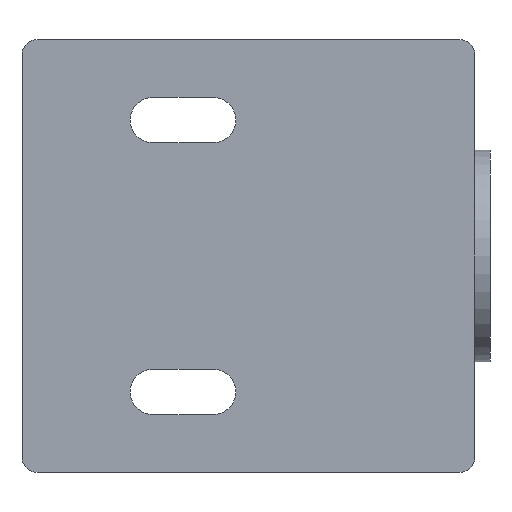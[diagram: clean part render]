
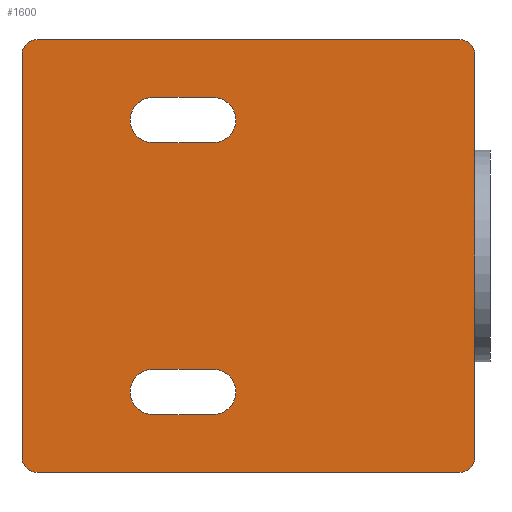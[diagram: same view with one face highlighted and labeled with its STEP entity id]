
A CAD part, front view. The second image highlights one B-rep face of the part: STEP entity #1600.
In plain terms, the highlighted planar face has unit normal (0, -1, 0).
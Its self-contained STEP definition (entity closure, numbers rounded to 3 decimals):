
#92=LINE('',#3558,#174);
#93=LINE('',#3562,#175);
#94=LINE('',#3566,#176);
#95=LINE('',#3570,#177);
#96=LINE('',#3576,#178);
#97=LINE('',#3579,#179);
#98=LINE('',#3584,#180);
#99=LINE('',#3587,#181);
#174=VECTOR('',#2185,80.);
#175=VECTOR('',#2188,84.);
#176=VECTOR('',#2191,80.);
#177=VECTOR('',#2194,84.);
#178=VECTOR('',#2199,12.);
#179=VECTOR('',#2202,12.);
#180=VECTOR('',#2205,12.);
#181=VECTOR('',#2208,12.);
#246=PLANE('',#1783);
#345=FACE_BOUND('',#549,.T.);
#346=FACE_BOUND('',#550,.T.);
#419=FACE_OUTER_BOUND('',#548,.T.);
#548=EDGE_LOOP('',(#1352,#1353,#1354,#1355,#1356,#1357,#1358,#1359));
#549=EDGE_LOOP('',(#1360,#1361,#1362,#1363));
#550=EDGE_LOOP('',(#1364,#1365,#1366,#1367));
#675=CIRCLE('',#1784,3.);
#676=CIRCLE('',#1785,3.);
#677=CIRCLE('',#1786,3.);
#678=CIRCLE('',#1787,3.);
#679=CIRCLE('',#1788,4.5);
#680=CIRCLE('',#1789,4.5);
#681=CIRCLE('',#1790,4.5);
#682=CIRCLE('',#1791,4.5);
#811=VERTEX_POINT('',#3556);
#812=VERTEX_POINT('',#3557);
#813=VERTEX_POINT('',#3559);
#814=VERTEX_POINT('',#3561);
#815=VERTEX_POINT('',#3563);
#816=VERTEX_POINT('',#3565);
#817=VERTEX_POINT('',#3567);
#818=VERTEX_POINT('',#3569);
#819=VERTEX_POINT('',#3572);
#820=VERTEX_POINT('',#3573);
#821=VERTEX_POINT('',#3575);
#822=VERTEX_POINT('',#3577);
#823=VERTEX_POINT('',#3580);
#824=VERTEX_POINT('',#3581);
#825=VERTEX_POINT('',#3583);
#826=VERTEX_POINT('',#3585);
#1006=EDGE_CURVE('',#811,#812,#92,.T.);
#1007=EDGE_CURVE('',#813,#812,#675,.T.);
#1008=EDGE_CURVE('',#813,#814,#93,.T.);
#1009=EDGE_CURVE('',#815,#814,#676,.T.);
#1010=EDGE_CURVE('',#816,#815,#94,.T.);
#1011=EDGE_CURVE('',#817,#816,#677,.T.);
#1012=EDGE_CURVE('',#818,#817,#95,.T.);
#1013=EDGE_CURVE('',#811,#818,#678,.T.);
#1014=EDGE_CURVE('',#819,#820,#679,.T.);
#1015=EDGE_CURVE('',#820,#821,#96,.T.);
#1016=EDGE_CURVE('',#821,#822,#680,.T.);
#1017=EDGE_CURVE('',#822,#819,#97,.T.);
#1018=EDGE_CURVE('',#823,#824,#681,.T.);
#1019=EDGE_CURVE('',#824,#825,#98,.T.);
#1020=EDGE_CURVE('',#825,#826,#682,.T.);
#1021=EDGE_CURVE('',#826,#823,#99,.T.);
#1352=ORIENTED_EDGE('',*,*,#1006,.T.);
#1353=ORIENTED_EDGE('',*,*,#1007,.F.);
#1354=ORIENTED_EDGE('',*,*,#1008,.T.);
#1355=ORIENTED_EDGE('',*,*,#1009,.F.);
#1356=ORIENTED_EDGE('',*,*,#1010,.F.);
#1357=ORIENTED_EDGE('',*,*,#1011,.F.);
#1358=ORIENTED_EDGE('',*,*,#1012,.F.);
#1359=ORIENTED_EDGE('',*,*,#1013,.F.);
#1360=ORIENTED_EDGE('',*,*,#1014,.T.);
#1361=ORIENTED_EDGE('',*,*,#1015,.T.);
#1362=ORIENTED_EDGE('',*,*,#1016,.T.);
#1363=ORIENTED_EDGE('',*,*,#1017,.T.);
#1364=ORIENTED_EDGE('',*,*,#1018,.T.);
#1365=ORIENTED_EDGE('',*,*,#1019,.T.);
#1366=ORIENTED_EDGE('',*,*,#1020,.T.);
#1367=ORIENTED_EDGE('',*,*,#1021,.T.);
#1600=ADVANCED_FACE('',(#419,#345,#346),#246,.T.);
#1783=AXIS2_PLACEMENT_3D('',#3555,#2183,#2184);
#1784=AXIS2_PLACEMENT_3D('',#3560,#2186,#2187);
#1785=AXIS2_PLACEMENT_3D('',#3564,#2189,#2190);
#1786=AXIS2_PLACEMENT_3D('',#3568,#2192,#2193);
#1787=AXIS2_PLACEMENT_3D('',#3571,#2195,#2196);
#1788=AXIS2_PLACEMENT_3D('',#3574,#2197,#2198);
#1789=AXIS2_PLACEMENT_3D('',#3578,#2200,#2201);
#1790=AXIS2_PLACEMENT_3D('',#3582,#2203,#2204);
#1791=AXIS2_PLACEMENT_3D('',#3586,#2206,#2207);
#2183=DIRECTION('center_axis',(0.,-1.,0.));
#2184=DIRECTION('ref_axis',(0.,0.,1.));
#2185=DIRECTION('',(0.,0.,1.));
#2186=DIRECTION('center_axis',(0.,1.,0.));
#2187=DIRECTION('ref_axis',(0.707,0.,0.707));
#2188=DIRECTION('',(-1.,0.,0.));
#2189=DIRECTION('center_axis',(0.,1.,0.));
#2190=DIRECTION('ref_axis',(-0.707,0.,0.707));
#2191=DIRECTION('',(0.,0.,1.));
#2192=DIRECTION('center_axis',(0.,1.,0.));
#2193=DIRECTION('ref_axis',(-0.707,0.,-0.707));
#2194=DIRECTION('',(-1.,0.,0.));
#2195=DIRECTION('center_axis',(0.,1.,0.));
#2196=DIRECTION('ref_axis',(0.707,0.,-0.707));
#2197=DIRECTION('center_axis',(0.,1.,0.));
#2198=DIRECTION('ref_axis',(0.,0.,1.));
#2199=DIRECTION('',(-1.,0.,0.));
#2200=DIRECTION('center_axis',(0.,1.,0.));
#2201=DIRECTION('ref_axis',(0.,0.,-1.));
#2202=DIRECTION('',(1.,0.,0.));
#2203=DIRECTION('center_axis',(0.,1.,0.));
#2204=DIRECTION('ref_axis',(0.,0.,
1.));
#2205=DIRECTION('',(-1.,0.,0.));
#2206=DIRECTION('center_axis',(0.,1.,0.));
#2207=DIRECTION('ref_axis',(0.,0.,
-1.));
#2208=DIRECTION('',(1.,0.,0.));
#3555=CARTESIAN_POINT('Origin',(38.,-68.,-43.));
#3556=CARTESIAN_POINT('',(38.,-68.,-40.));
#3557=CARTESIAN_POINT('',(38.,-68.,40.));
#3558=CARTESIAN_POINT('',(38.,-68.,-43.));
#3559=CARTESIAN_POINT('',(35.,-68.,43.));
#3560=CARTESIAN_POINT('Origin',(35.,-68.,40.));
#3561=CARTESIAN_POINT('',(-49.,-68.,43.));
#3562=CARTESIAN_POINT('',(38.,-68.,43.));
#3563=CARTESIAN_POINT('',(-52.,-68.,40.));
#3564=CARTESIAN_POINT('Origin',(-49.,-68.,40.));
#3565=CARTESIAN_POINT('',(-52.,-68.,-40.));
#3566=CARTESIAN_POINT('',(-52.,-68.,-43.));
#3567=CARTESIAN_POINT('',(-49.,-68.,-43.));
#3568=CARTESIAN_POINT('Origin',(-49.,-68.,-40.));
#3569=CARTESIAN_POINT('',(35.,-68.,-43.));
#3570=CARTESIAN_POINT('',(38.,-68.,-43.));
#3571=CARTESIAN_POINT('Origin',(35.,-68.,-40.));
#3572=CARTESIAN_POINT('',(-14.,-68.,31.5));
#3573=CARTESIAN_POINT('',(-14.,-68.,22.5));
#3574=CARTESIAN_POINT('Origin',(-14.,-68.,27.));
#3575=CARTESIAN_POINT('',(-26.,-68.,22.5));
#3576=CARTESIAN_POINT('',(6.,-68.,22.5));
#3577=CARTESIAN_POINT('',(-26.,-68.,31.5));
#3578=CARTESIAN_POINT('Origin',(-26.,-68.,27.));
#3579=CARTESIAN_POINT('',(12.,-68.,31.5));
#3580=CARTESIAN_POINT('',(-14.,-68.,-22.5));
#3581=CARTESIAN_POINT('',(-14.,-68.,-31.5));
#3582=CARTESIAN_POINT('Origin',(-14.,-68.,-27.));
#3583=CARTESIAN_POINT('',(-26.,-68.,-31.5));
#3584=CARTESIAN_POINT('',(6.,-68.,-31.5));
#3585=CARTESIAN_POINT('',(-26.,-68.,-22.5));
#3586=CARTESIAN_POINT('Origin',(-26.,-68.,-27.));
#3587=CARTESIAN_POINT('',(12.,-68.,-22.5));
